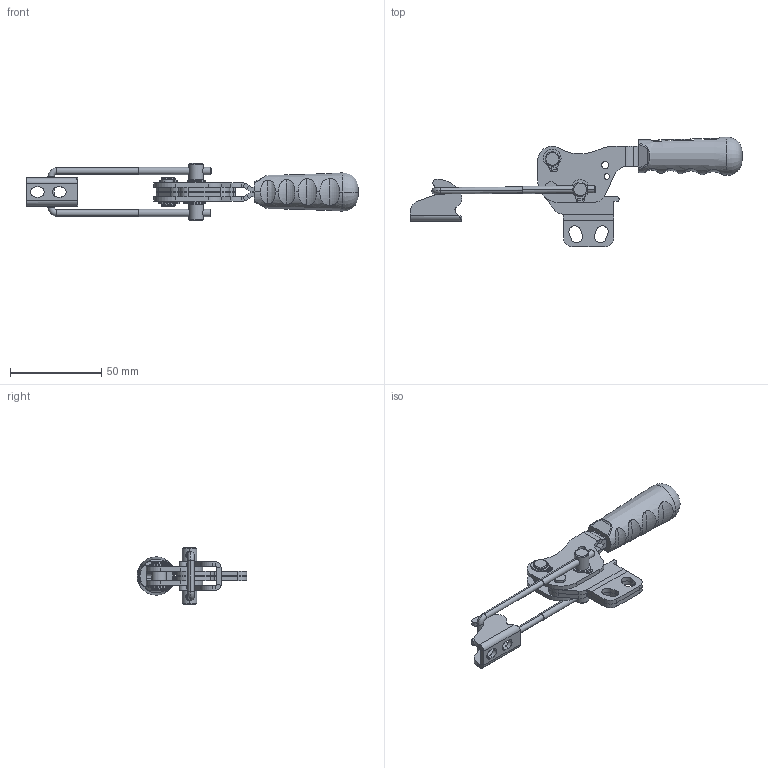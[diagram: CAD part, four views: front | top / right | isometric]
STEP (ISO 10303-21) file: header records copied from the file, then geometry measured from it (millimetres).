
FILE_DESCRIPTION (( 'STEP AP203' ), '1' );
FILE_NAME ('13105_D.STEP', '2022-11-29T14:01:50', ( '' ), ( '' ), 'SwSTEP 2.0', 'SolidWorks 2023', '' );
FILE_SCHEMA (( 'CONFIG_CONTROL_DESIGN' ));
Length unit declared in the file: millimetre
Products named in the file (12): DIN 471 Ø8 Segman_Circlip DIN 471 - 8 x 0.8; Aynalama13105 Gövde_Varsayılan; 13105 Gövde_Varsayılan; 13105 Hareket Kolu_Varsayılan; dikey kullanım cap 8 mili_Varsayılan; Ø8xM4 U Kanca_Varsayılan; 4x12_5_PERÇİN_Varsayılan; C55_Yeni_Tutamak_Varsayılan; Aynalama13105 Hareket Kolu_Varsayılan; M4x40_U_KANCA_Varsayılan; 13105_D; M4_KK_2
Assembly tree (14 placements, depth 2):
  13105_D
    13105 Gövde_Varsayılan
    13105 Hareket Kolu_Varsayılan
    Aynalama13105 Hareket Kolu_Varsayılan
    Aynalama13105 Gövde_Varsayılan
    Ø8xM4 U Kanca_Varsayılan
    4x12_5_PERÇİN_Varsayılan
    DIN 471 Ø8 Segman_Circlip DIN 471 - 8 x 0.8  x4
    M4x40_U_KANCA_Varsayılan
    C55_Yeni_Tutamak_Varsayılan
    dikey kullanım cap 8 mili_Varsayılan
    M4_KK_2
Bounding box: 182.13 x 60.2 x 31.5 mm (x, y, z)
Volume: 32419.4 mm3; surface area: 25505 mm2
Topology: 14 solids, 14 shells, 599 faces, 1538 edges, 985 vertices
Faces by surface type: plane 318, cylinder 234, torus 20, bspline 14, cone 13
Entity records: 18710 total; most frequent: CARTESIAN_POINT 4669, DIRECTION 2678, ORIENTED_EDGE 2626, EDGE_CURVE 1313, AXIS2_PLACEMENT_3D 932, VERTEX_POINT 835, LINE 814, VECTOR 814
